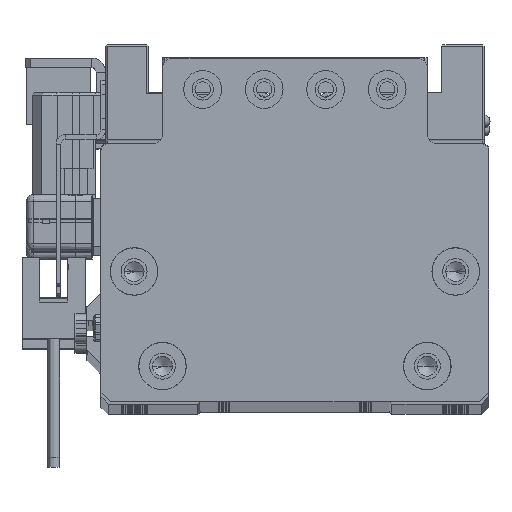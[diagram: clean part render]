
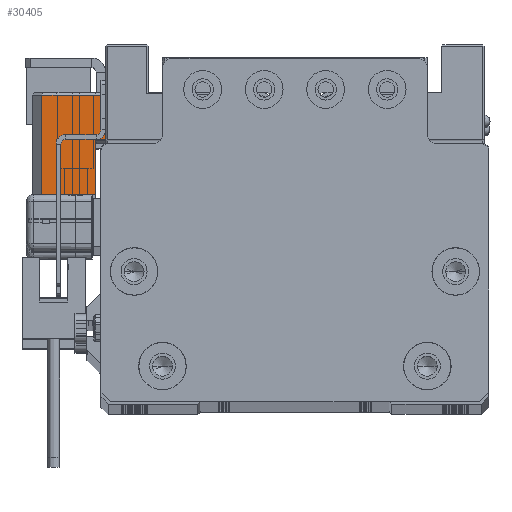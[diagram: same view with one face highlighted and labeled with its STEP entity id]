
A CAD part, top view. The second image highlights one B-rep face of the part: STEP entity #30405.
In plain terms, the highlighted planar face has unit normal (0, 0, 1) as drawn and (1, 0, 0) by its records, which use the part's own axes.
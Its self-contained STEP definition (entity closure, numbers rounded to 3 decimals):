
#2001 = CARTESIAN_POINT ( 'NONE',  ( 17., 10.25, -2. ) ) ;
#2721 = VERTEX_POINT ( 'NONE', #19145 ) ;
#3556 = LINE ( 'NONE', #29911, #59296 ) ;
#6319 = FACE_OUTER_BOUND ( 'NONE', #17508, .T. ) ;
#7455 = ORIENTED_EDGE ( 'NONE', *, *, #34413, .F. ) ;
#7661 = DIRECTION ( 'NONE',  ( 0., -1., 0. ) ) ;
#8543 = DIRECTION ( 'NONE',  ( 0., -1., 0. ) ) ;
#8632 = ORIENTED_EDGE ( 'NONE', *, *, #46609, .F. ) ;
#8878 = LINE ( 'NONE', #53703, #21438 ) ;
#11284 = LINE ( 'NONE', #46560, #46645 ) ;
#11683 = VERTEX_POINT ( 'NONE', #55904 ) ;
#12450 = DIRECTION ( 'NONE',  ( 0., 0., 1. ) ) ;
#16531 = CARTESIAN_POINT ( 'NONE',  ( 17., -10.75, -15.5 ) ) ;
#17508 = EDGE_LOOP ( 'NONE', ( #43956, #61555, #59244, #7455, #50999, #8632 ) ) ;
#18412 = EDGE_CURVE ( 'NONE', #20747, #27621, #3556, .T. ) ;
#19145 = CARTESIAN_POINT ( 'NONE',  ( 17., 0.75, -13.3 ) ) ;
#20481 = EDGE_CURVE ( 'NONE', #27621, #49596, #27112, .T. ) ;
#20747 = VERTEX_POINT ( 'NONE', #51029 ) ;
#21438 = VECTOR ( 'NONE', #8543, 1000. ) ;
#21808 = PLANE ( 'NONE',  #50082 ) ;
#25277 = VERTEX_POINT ( 'NONE', #39255 ) ;
#26825 = VECTOR ( 'NONE', #7661, 1000. ) ;
#27112 = LINE ( 'NONE', #34559, #26825 ) ;
#27621 = VERTEX_POINT ( 'NONE', #2001 ) ;
#28254 = CARTESIAN_POINT ( 'NONE',  ( 17., -10.75, -2. ) ) ;
#29911 = CARTESIAN_POINT ( 'NONE',  ( 17., 10.25, -15.5 ) ) ;
#30405 = ADVANCED_FACE ( 'NONE', ( #6319 ), #21808, .T. ) ;
#31732 = LINE ( 'NONE', #36343, #44632 ) ;
#34413 = EDGE_CURVE ( 'NONE', #11683, #49596, #37493, .T. ) ;
#34559 = CARTESIAN_POINT ( 'NONE',  ( 17., -10.75, -2. ) ) ;
#36343 = CARTESIAN_POINT ( 'NONE',  ( 17., -10.75, -15.5 ) ) ;
#37493 = LINE ( 'NONE', #57608, #43153 ) ;
#39255 = CARTESIAN_POINT ( 'NONE',  ( 17., 0.75, -15.5 ) ) ;
#41903 = DIRECTION ( 'NONE',  ( 1., 0., 0. ) ) ;
#43153 = VECTOR ( 'NONE', #12450, 1000. ) ;
#43956 = ORIENTED_EDGE ( 'NONE', *, *, #47575, .T. ) ;
#44632 = VECTOR ( 'NONE', #55806, 1000. ) ;
#46560 = CARTESIAN_POINT ( 'NONE',  ( 17., 0.75, -15.5 ) ) ;
#46609 = EDGE_CURVE ( 'NONE', #25277, #2721, #11284, .T. ) ;
#46645 = VECTOR ( 'NONE', #57750, 1000. ) ;
#47575 = EDGE_CURVE ( 'NONE', #25277, #20747, #31732, .T. ) ;
#48374 = EDGE_CURVE ( 'NONE', #2721, #11683, #8878, .T. ) ;
#49596 = VERTEX_POINT ( 'NONE', #28254 ) ;
#50014 = DIRECTION ( 'NONE',  ( 0., 0., 1. ) ) ;
#50082 = AXIS2_PLACEMENT_3D ( 'NONE', #16531, #41903, #62013 ) ;
#50999 = ORIENTED_EDGE ( 'NONE', *, *, #48374, .F. ) ;
#51029 = CARTESIAN_POINT ( 'NONE',  ( 17., 10.25, -15.5 ) ) ;
#53703 = CARTESIAN_POINT ( 'NONE',  ( 17., -10.75, -13.3 ) ) ;
#55806 = DIRECTION ( 'NONE',  ( 0., 1., 0. ) ) ;
#55904 = CARTESIAN_POINT ( 'NONE',  ( 17., -10.75, -13.3 ) ) ;
#57608 = CARTESIAN_POINT ( 'NONE',  ( 17., -10.75, -15.5 ) ) ;
#57750 = DIRECTION ( 'NONE',  ( 0., 0., 1. ) ) ;
#59244 = ORIENTED_EDGE ( 'NONE', *, *, #20481, .T. ) ;
#59296 = VECTOR ( 'NONE', #50014, 1000. ) ;
#61555 = ORIENTED_EDGE ( 'NONE', *, *, #18412, .T. ) ;
#62013 = DIRECTION ( 'NONE',  ( 0., 0., -1. ) ) ;
